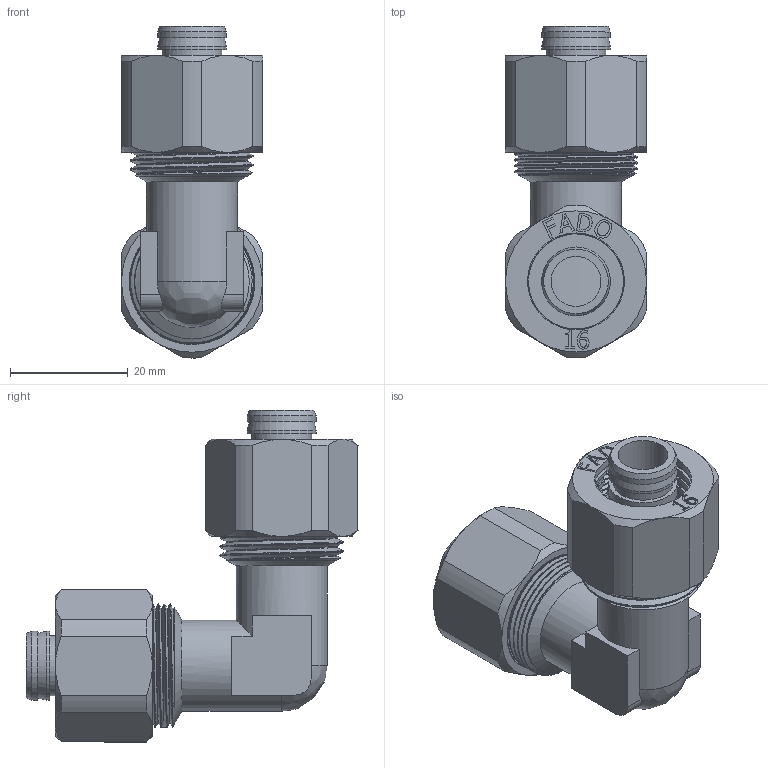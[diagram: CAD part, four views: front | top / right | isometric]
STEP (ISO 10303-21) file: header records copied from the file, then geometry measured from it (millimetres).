
FILE_DESCRIPTION(/* description */ (''),/* implementation_level */ '2;1');
FILE_NAME(/* name */ 'C:\Users\Doom\Desktop\Фадотех\Обжим\RFU01 16 30.03.2020\RFU01 16 30.03.2020.stp',/* time_stamp */ '2022-06-01T15:14:39+03:00',/* author */ ('Doom'),/* organization */ (''),/* preprocessor_version */ 'ST-DEVELOPER v18',/* originating_system */ 'Autodesk Inventor 2020',/* authorisation */ '');
FILE_SCHEMA (('AUTOMOTIVE_DESIGN { 1 0 10303 214 3 1 1 }'));
Length unit declared in the file: millimetre
Products named in the file (5): RFU01 16 30.03.2020; RFU01 16 30.03.2020_1; FADO MC Nut-16 15.02.2020; FADO MC Socket-16 15.02.2020; Olive 16 15.02.2020
Assembly tree (7 placements, depth 2):
  RFU01 16 30.03.2020
    RFU01 16 30.03.2020_1
    FADO MC Nut-16 15.02.2020  x2
    FADO MC Socket-16 15.02.2020  x2
    Olive 16 15.02.2020  x2
Bounding box: 24 x 56.49 x 56.49 mm (x, y, z)
Volume: 16664.9 mm3; surface area: 26941.8 mm2
Topology: 11 solids, 11 shells, 1017 faces, 2779 edges, 1861 vertices
Faces by surface type: bspline 498, plane 307, cylinder 160, cone 52
Full cylindrical faces by diameter (mm): 8.5 x2, 10.2 x4, 11.7 x8, 12.5 x2, 12.6 x2, 14.7 x4, 15.5 x4, 16.5 x2, 18.776 x2, 19 x2, 19.5 x2, 19.517 x2, 19.867 x24, 21 x16, 21.35 x4
Entity records: 36465 total; most frequent: CARTESIAN_POINT 23931, ORIENTED_EDGE 3028, DIRECTION 1769, EDGE_CURVE 1514, VERTEX_POINT 1015, EDGE_LOOP 611, LINE 609, VECTOR 609
